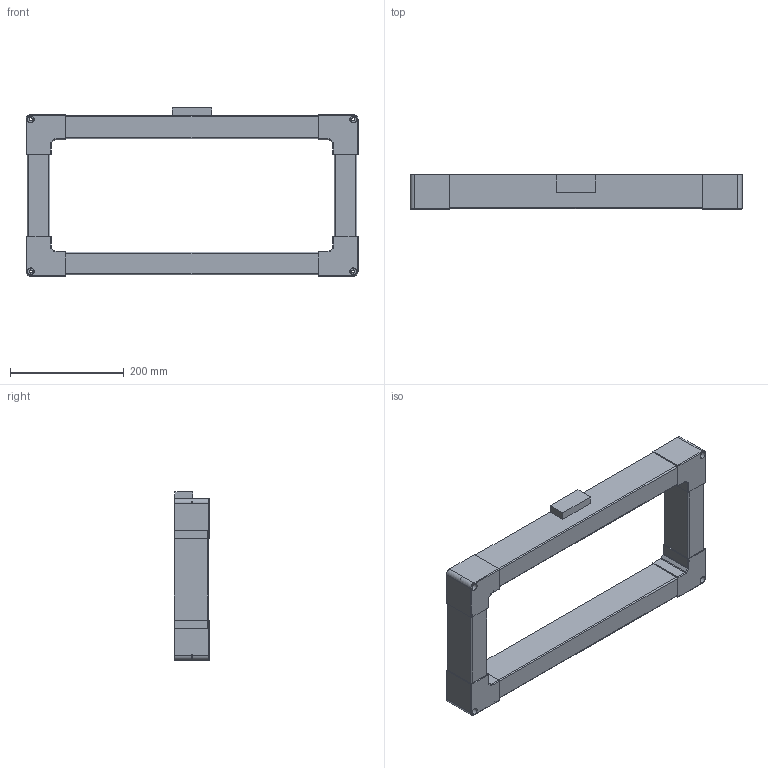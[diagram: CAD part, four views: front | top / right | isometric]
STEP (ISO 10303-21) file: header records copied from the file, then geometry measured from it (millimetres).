
FILE_DESCRIPTION((''),'2;1');
FILE_NAME('C14313_SW0001','2014-10-01T',('esors'),(''),'PRO/ENGINEER BY PARAMETRIC TECHNOLOGY CORPORATION, 2013410','PRO/ENGINEER BY PARAMETRIC TECHNOLOGY CORPORATION, 2013410','');
FILE_SCHEMA(('AUTOMOTIVE_DESIGN { 1 0 10303 214 1 1 1 1 }'));
Length unit declared in the file: millimetre
Products named in the file (1): C14313_SW0001
Bounding box: 584.4 x 62 x 296.3 mm (x, y, z)
Volume: 3816614.3 mm3; surface area: 364099.8 mm2
Topology: 1 solids, 1 shells, 374 faces, 988 edges, 624 vertices
Faces by surface type: plane 230, cylinder 116, torus 28
Entity records: 11949 total; most frequent: DIRECTION 2012, CARTESIAN_POINT 1988, ORIENTED_EDGE 1976, EDGE_CURVE 988, VECTOR 712, LINE 712, AXIS2_PLACEMENT_3D 650, VERTEX_POINT 624
